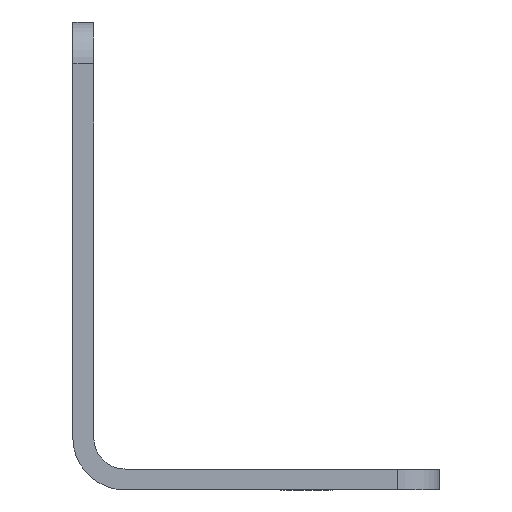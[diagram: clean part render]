
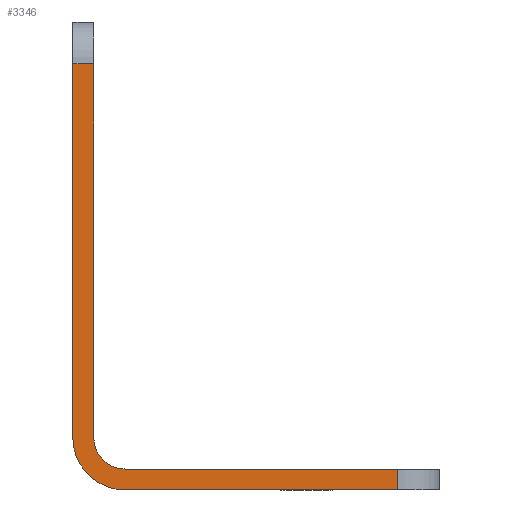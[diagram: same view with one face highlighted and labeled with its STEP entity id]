
A CAD part, front view. The second image highlights one B-rep face of the part: STEP entity #3346.
In plain terms, the highlighted planar face has unit normal (0, -1, 0).
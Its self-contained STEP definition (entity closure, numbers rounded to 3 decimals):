
#175=PLANE('',#3671);
#336=FACE_OUTER_BOUND('',#578,.T.);
#578=EDGE_LOOP('',(#3097,#3098,#3099,#3100,#3101,#3102,#3103,#3104));
#867=LINE('',#5517,#1179);
#872=LINE('',#5529,#1184);
#882=LINE('',#5563,#1194);
#886=LINE('',#5572,#1198);
#889=LINE('',#5580,#1201);
#890=LINE('',#5584,#1202);
#1179=VECTOR('',#4560,2.);
#1184=VECTOR('',#4571,26.);
#1194=VECTOR('',#4603,35.7);
#1198=VECTOR('',#4613,2.);
#1201=VECTOR('',#4622,26.);
#1202=VECTOR('',#4629,35.7);
#1363=CIRCLE('',#3666,5.);
#1364=CIRCLE('',#3669,3.);
#1660=VERTEX_POINT('',#5514);
#1661=VERTEX_POINT('',#5516);
#1665=VERTEX_POINT('',#5528);
#1677=VERTEX_POINT('',#5560);
#1678=VERTEX_POINT('',#5562);
#1680=VERTEX_POINT('',#5570);
#1681=VERTEX_POINT('',#5574);
#1682=VERTEX_POINT('',#5578);
#2122=EDGE_CURVE('',#1660,#1661,#867,.T.);
#2128=EDGE_CURVE('',#1665,#1661,#872,.T.);
#2145=EDGE_CURVE('',#1678,#1677,#882,.T.);
#2150=EDGE_CURVE('',#1680,#1677,#886,.T.);
#2151=EDGE_CURVE('',#1681,#1665,#1363,.T.);
#2154=EDGE_CURVE('',#1660,#1682,#889,.T.);
#2155=EDGE_CURVE('',#1682,#1678,#1364,.T.);
#2156=EDGE_CURVE('',#1680,#1681,#890,.T.);
#3097=ORIENTED_EDGE('',*,*,#2122,.F.);
#3098=ORIENTED_EDGE('',*,*,#2154,.T.);
#3099=ORIENTED_EDGE('',*,*,#2155,.T.);
#3100=ORIENTED_EDGE('',*,*,#2145,.T.);
#3101=ORIENTED_EDGE('',*,*,#2150,.F.);
#3102=ORIENTED_EDGE('',*,*,#2156,.T.);
#3103=ORIENTED_EDGE('',*,*,#2151,.T.);
#3104=ORIENTED_EDGE('',*,*,#2128,.T.);
#3346=ADVANCED_FACE('',(#336),#175,.F.);
#3666=AXIS2_PLACEMENT_3D('',#5575,#4616,#4617);
#3669=AXIS2_PLACEMENT_3D('',#5582,#4625,#4626);
#3671=AXIS2_PLACEMENT_3D('',#5585,#4630,#4631);
#4560=DIRECTION('',(0.,0.,-1.));
#4571=DIRECTION('',(1.,0.,0.));
#4603=DIRECTION('',(0.,0.,1.));
#4613=DIRECTION('',(1.,0.,0.));
#4616=DIRECTION('center_axis',(0.,-1.,0.));
#4617=DIRECTION('ref_axis',(0.,0.,1.));
#4622=DIRECTION('',(-1.,0.,0.));
#4625=DIRECTION('center_axis',(0.,1.,0.));
#4626=DIRECTION('ref_axis',(0.,0.,-1.));
#4629=DIRECTION('',(0.,0.,-1.));
#4630=DIRECTION('center_axis',(0.,1.,0.));
#4631=DIRECTION('ref_axis',(0.,0.,1.));
#5514=CARTESIAN_POINT('',(31.,0.,2.));
#5516=CARTESIAN_POINT('',(31.,0.,0.));
#5517=CARTESIAN_POINT('',(31.,0.,8.021));
#5528=CARTESIAN_POINT('',(5.,0.,0.));
#5529=CARTESIAN_POINT('',(5.,0.,0.));
#5560=CARTESIAN_POINT('',(2.,0.,40.7));
#5562=CARTESIAN_POINT('',(2.,0.,5.));
#5563=CARTESIAN_POINT('',(2.,0.,5.));
#5570=CARTESIAN_POINT('',(0.,0.,40.7));
#5572=CARTESIAN_POINT('',(4.492,0.,40.7));
#5574=CARTESIAN_POINT('',(0.,0.,5.));
#5575=CARTESIAN_POINT('Origin',(5.,0.,5.));
#5578=CARTESIAN_POINT('',(5.,0.,2.));
#5580=CARTESIAN_POINT('',(35.,0.,2.));
#5582=CARTESIAN_POINT('Origin',(5.,0.,5.));
#5584=CARTESIAN_POINT('',(0.,0.,44.7));
#5585=CARTESIAN_POINT('Origin',(8.984,0.,14.043));
